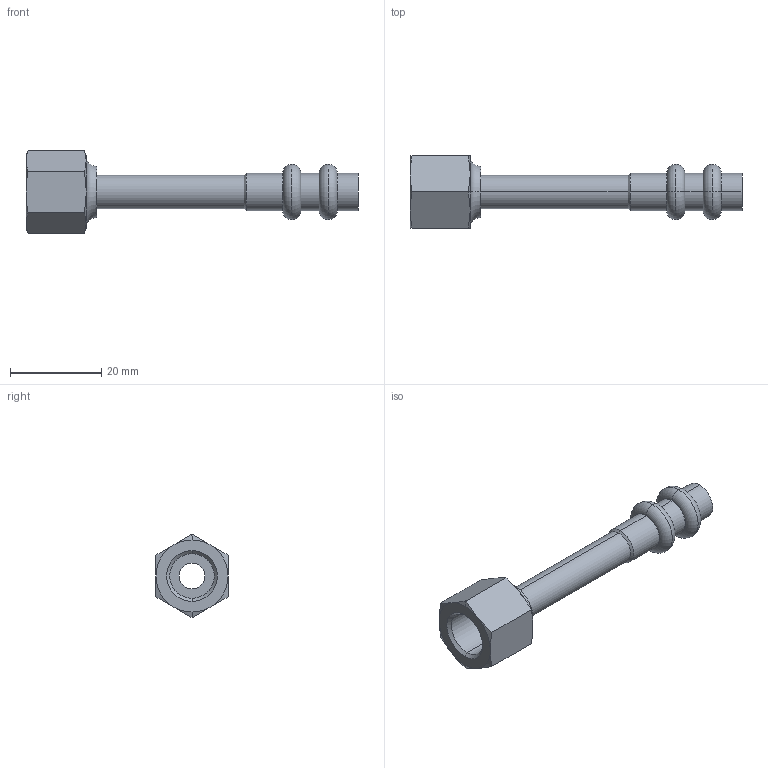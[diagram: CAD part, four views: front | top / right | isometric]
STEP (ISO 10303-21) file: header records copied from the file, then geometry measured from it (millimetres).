
FILE_DESCRIPTION(('starvars output'),'1');
FILE_NAME('cv20240422105127000011905.stp','10:51:27 2024/04/22',('Thomas Industrial Network Germany GmbH'),(' '),'Spatial InterOp 3D',' ',' ');
FILE_SCHEMA(('AUTOMOTIVE_DESIGN { 1 0 10303 214 3 1 1 }'));
Length unit declared in the file: millimetre
Products named in the file (1): 1
Bounding box: 72.7 x 15.8 x 18.24 mm (x, y, z)
Volume: 3335.4 mm3; surface area: 4450.1 mm2
Topology: 1 solids, 1 shells, 78 faces, 160 edges, 94 vertices
Faces by surface type: cone 24, torus 18, cylinder 18, plane 18
Entity records: 2736 total; most frequent: CARTESIAN_POINT 429, DIRECTION 394, ORIENTED_EDGE 320, AXIS2_PLACEMENT_3D 179, EDGE_CURVE 160, CIRCLE 100, VERTEX_POINT 94, EDGE_LOOP 90
